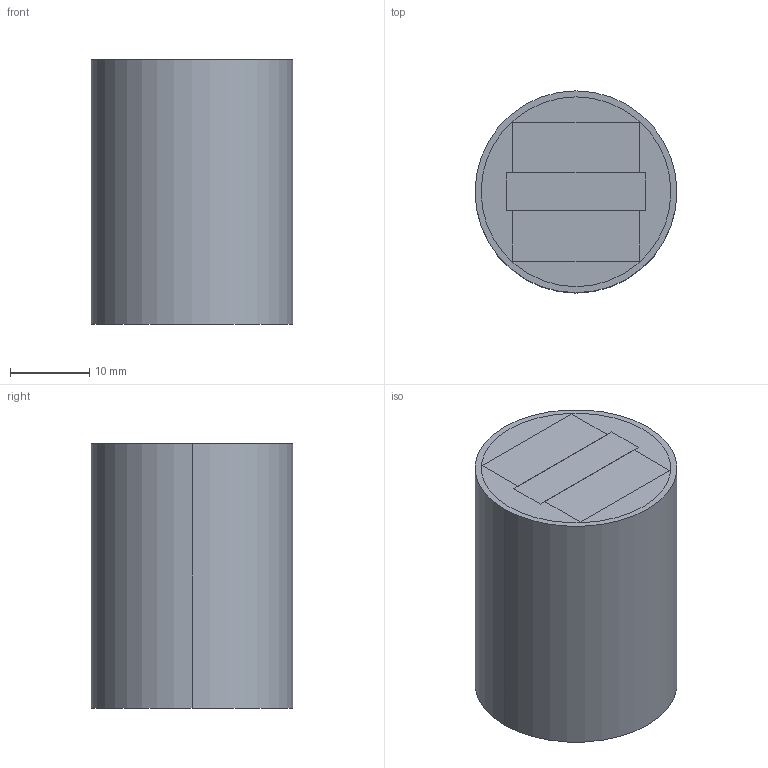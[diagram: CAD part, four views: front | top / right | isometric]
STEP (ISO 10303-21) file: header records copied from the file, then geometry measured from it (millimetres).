
FILE_DESCRIPTION (( 'STEP AP203' ), '1' );
FILE_NAME ('NT1000.STEP', '2018-07-09T14:34:33', ( '' ), ( '' ), 'SwSTEP 2.0', 'SolidWorks 2015', '' );
FILE_SCHEMA (( 'CONFIG_CONTROL_DESIGN' ));
Length unit declared in the file: inch
Products named in the file (1): NT1000
Bounding box: 25.4 x 25.4 x 33.27 mm (x, y, z)
Volume: 16609.2 mm3; surface area: 13612.5 mm2
Topology: 5 solids, 5 shells, 43 faces, 96 edges, 64 vertices
Faces by surface type: plane 35, cylinder 8
Entity records: 1265 total; most frequent: CARTESIAN_POINT 204, DIRECTION 200, ORIENTED_EDGE 192, EDGE_CURVE 96, LINE 80, VECTOR 80, VERTEX_POINT 64, AXIS2_PLACEMENT_3D 60
